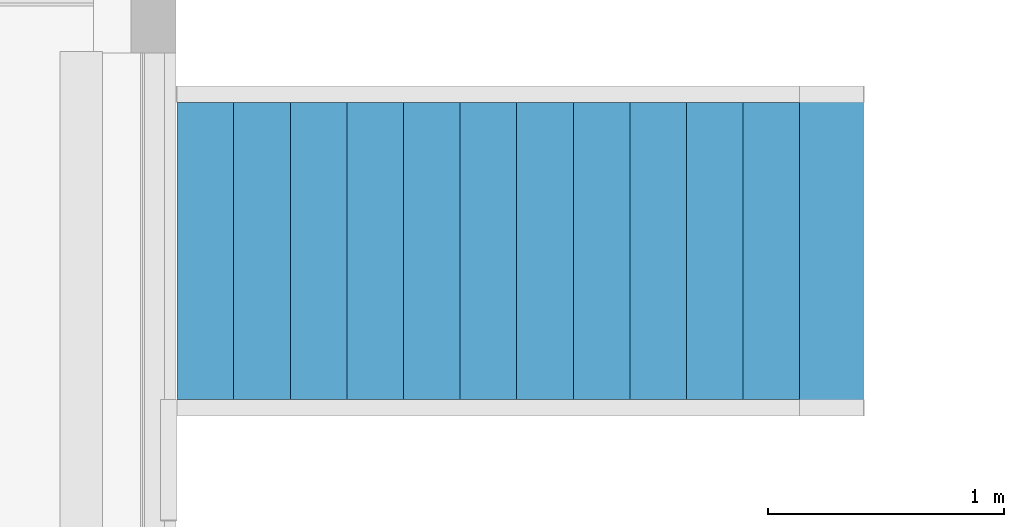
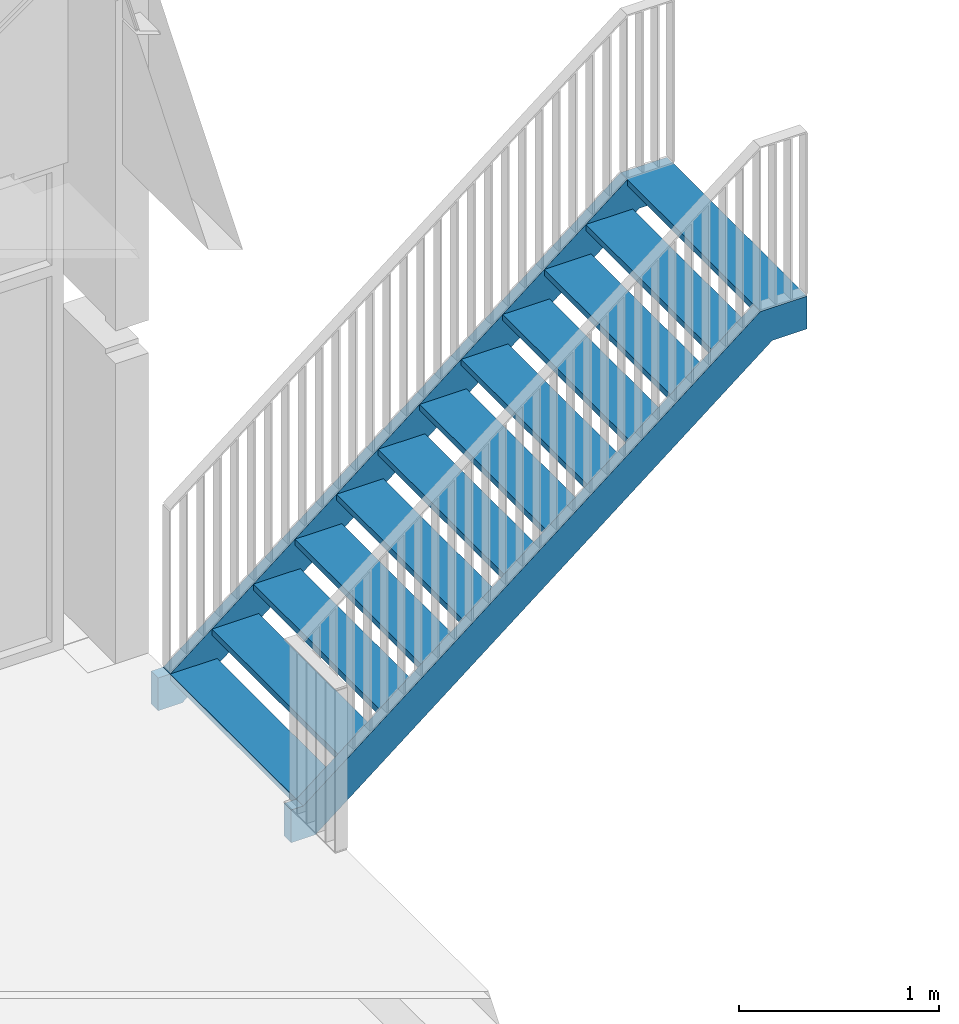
# One storey, part 35 of 94: 1 stair.
"""IFC2X3 building model written with IfcOpenShell, lengths in millimetres."""

from ifc_helpers import new_model, entity, si_unit, converted_unit, derived_unit, money_unit, direction, frame, origin_with_axes, place, context, subcontext, project, spatial, faceted_brep, material, material_list, element, save


model = new_model("IFC2X3")

# Units and contexts
model_context = context("Model", 3, precision=0.01, world=origin_with_axes(), true_north=direction((0.0, 1.0)))
body_context = subcontext(model_context, "Body", "Model", "MODEL_VIEW")
ifc_project = project(units=[si_unit("LENGTHUNIT", "METRE", prefix="MILLI"), si_unit("AREAUNIT", "SQUARE_METRE"), si_unit("VOLUMEUNIT", "CUBIC_METRE"), converted_unit("PLANEANGLEUNIT", "DEGREE", entity("IfcPlaneAngleMeasure", 0.0174532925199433), si_unit("PLANEANGLEUNIT", "RADIAN"), dimensions=[0, 0, 0, 0, 0, 0, 0]), money_unit("EUR"), converted_unit("TIMEUNIT", "Year", entity("IfcTimeMeasure", 31557600.0), si_unit("TIMEUNIT", "SECOND"), dimensions=[0, 0, 1, 0, 0, 0, 0]), si_unit("MASSUNIT", "GRAM", prefix="KILO"), si_unit("THERMODYNAMICTEMPERATUREUNIT", "DEGREE_CELSIUS"), si_unit("LUMINOUSINTENSITYUNIT", "LUMEN"), si_unit("ENERGYUNIT", "JOULE", prefix="MEGA"), derived_unit("THERMALCONDUCTANCEUNIT", [(si_unit("POWERUNIT", "WATT"), 1), (si_unit("LENGTHUNIT", "METRE"), -1), (si_unit("THERMODYNAMICTEMPERATUREUNIT", "KELVIN"), -1)]), derived_unit("SPECIFICHEATCAPACITYUNIT", [(si_unit("ENERGYUNIT", "JOULE"), 1), (si_unit("MASSUNIT", "GRAM", prefix="KILO"), -1), (si_unit("THERMODYNAMICTEMPERATUREUNIT", "KELVIN"), -1)]), derived_unit("MASSDENSITYUNIT", [(si_unit("MASSUNIT", "GRAM", prefix="KILO"), 1), (si_unit("VOLUMEUNIT", "CUBIC_METRE"), -1)])], contexts=[model_context])

# Site, building, storey
site_placement = place(None, origin_with_axes())
site = spatial("IfcSite", under=ifc_project, at=site_placement, Name="<site naam>", CompositionType="ELEMENT")
building_placement = place(site_placement, origin_with_axes())
building = spatial("IfcBuilding", under=site, at=building_placement, Name="<Naam gebouw>", CompositionType="ELEMENT")
storey_placement = place(building_placement, frame((0.0, 0.0, 4250.0), z_axis=(0.0, 0.0, 1.0), x_axis=(1.0, 0.0, 0.0)))
storey = spatial("IfcBuildingStorey", under=building, at=storey_placement, Name="01 1e verdieping", CompositionType="ELEMENT", Elevation=4250.0)

# Stair
ifc_material = material(Name="staal")
ifc_material_list = material_list([ifc_material, ifc_material, ifc_material, ifc_material, ifc_material, ifc_material, ifc_material, ifc_material, ifc_material, ifc_material, ifc_material, ifc_material, ifc_material, ifc_material])
stair_placement = place(storey_placement, frame((55775.60735283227, 11515.00000000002, 0.0), z_axis=(0.0, 0.0, 1.0), x_axis=(1.0, 0.0, 0.0)))
element("IfcStair", 1, at=stair_placement, inside=storey, material=ifc_material_list, Name="24_Trap_", ShapeType="NOTDEFINED", context=body_context, shape_type="Brep", body=[
    faceted_brep([(-3666.232747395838, 0.0, 0.0), (-3666.232747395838, 0.0, -200.0000000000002), (-3526.518577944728, 0.0, -200.0000000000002), (-3231.909844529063, 0.0, 33.78988504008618), (-2991.909844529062, 0.0, 224.2444304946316), (-2751.90984452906, 0.0, 414.6989759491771), (-2511.909844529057, 0.0, 605.1535214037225), (-2271.909844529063, 0.0, 795.6080668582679), (-2031.909844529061, 0.0, 986.0626123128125), (-1791.909844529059, 0.0, 1176.517157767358), (-1551.909844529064, 0.0, 1366.971703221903), (-1311.909844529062, 0.0, 1557.426248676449), (-1071.90984452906, 0.0, 1747.880794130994), (-886.5185779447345, 0.0, 1894.999999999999), (-686.2327473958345, 0.0, 1894.999999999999), (-686.2327473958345, 0.0, 2094.999999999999), (-956.2327473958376, 0.0, 2094.999999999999), (-1196.23274739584, 0.0, 1904.545454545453), (-1436.232747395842, 0.0, 1714.090909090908), (-1676.232747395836, 0.0, 1523.636363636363), (-1916.232747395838, 0.0, 1333.181818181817), (-2156.23274739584, 0.0, 1142.727272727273), (-2396.232747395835, 0.0, 952.2727272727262), (-2636.232747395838, 0.0, 761.8181818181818), (-2876.232747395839, 0.0, 571.3636363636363), (-3116.232747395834, 0.0, 380.9090909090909), (-3356.232747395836, 0.0, 190.4545454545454), (-3596.232747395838, 0.0, 0.0), (-3666.232747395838, 69.99999999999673, 0.0), (-3666.232747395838, 69.99999999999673, -200.0000000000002), (-3526.518577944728, 69.99999999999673, -200.0000000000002), (-3231.909844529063, 69.99999999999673, 33.78988504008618), (-2991.909844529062, 69.99999999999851, 224.2444304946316), (-2751.90984452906, 69.99999999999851, 414.6989759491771), (-2511.909844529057, 69.99999999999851, 605.1535214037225), (-2271.909844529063, 69.99999999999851, 795.6080668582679), (-2031.909844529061, 69.99999999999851, 986.0626123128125), (-1791.909844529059, 70.00000000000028, 1176.517157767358), (-1551.909844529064, 70.00000000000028, 1366.971703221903), (-1311.909844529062, 70.00000000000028, 1557.426248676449), (-1071.90984452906, 70.00000000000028, 1747.880794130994), (-886.5185779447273, 70.00000000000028, 1894.999999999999), (-686.2327473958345, 70.00000000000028, 1894.999999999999), (-686.2327473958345, 70.00000000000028, 2094.999999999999), (-956.2327473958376, 70.00000000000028, 2094.999999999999), (-3596.232747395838, 69.99999999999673, 0.0), (-1196.23274739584, 70.00000000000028, 1904.545454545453), (-1436.232747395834, 70.00000000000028, 1714.090909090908), (-1676.232747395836, 70.00000000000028, 1523.636363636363), (-1916.232747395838, 69.99999999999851, 1333.181818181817), (-2156.23274739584, 69.99999999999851, 1142.727272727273), (-2396.232747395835, 69.99999999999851, 952.2727272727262), (-2636.232747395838, 69.99999999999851, 761.8181818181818), (-2876.232747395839, 69.99999999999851, 571.3636363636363), (-3116.232747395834, 69.99999999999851, 380.9090909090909), (-3356.232747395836, 69.99999999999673, 190.4545454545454)], [[[0, 1, 2, 3, 4, 5, 6, 7, 8, 9, 10, 11, 12, 13, 14, 15, 16, 17, 18, 19, 20, 21, 22, 23, 24, 25, 26, 27]], [[0, 28, 29, 1]], [[1, 29, 30, 2]], [[2, 30, 31, 32, 33, 34, 35, 36, 37, 38, 39, 40, 41, 13, 12, 11, 10, 9, 8, 7, 6, 5, 4, 3]], [[13, 41, 42, 14]], [[15, 14, 42, 43]], [[44, 16, 15, 43]], [[45, 27, 26, 25, 24, 23, 22, 21, 20, 19, 18, 17, 16, 44, 46, 47, 48, 49, 50, 51, 52, 53, 54, 55]], [[28, 0, 27, 45]], [[29, 28, 45, 55, 54, 53, 52, 51, 50, 49, 48, 47, 46, 44, 43, 42, 41, 40, 39, 38, 37, 36, 35, 34, 33, 32, 31, 30]]]),
    faceted_brep([(-3666.232747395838, -1330.000000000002, 0.0), (-3666.232747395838, -1330.000000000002, -200.0000000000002), (-3526.518577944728, -1330.000000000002, -200.0000000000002), (-3231.909844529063, -1330.000000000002, 33.78988504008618), (-2991.909844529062, -1330.0, 224.2444304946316), (-2751.90984452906, -1330.0, 414.6989759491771), (-2511.909844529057, -1330.000000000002, 605.1535214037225), (-2271.909844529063, -1330.000000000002, 795.6080668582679), (-2031.909844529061, -1330.000000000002, 986.0626123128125), (-1791.909844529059, -1330.0, 1176.517157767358), (-1551.909844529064, -1330.0, 1366.971703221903), (-1311.909844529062, -1330.0, 1557.426248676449), (-1071.90984452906, -1330.0, 1747.880794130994), (-886.5185779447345, -1330.0, 1894.999999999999), (-686.2327473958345, -1330.0, 1894.999999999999), (-686.2327473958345, -1330.0, 2094.999999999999), (-956.2327473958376, -1330.0, 2094.999999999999), (-1196.23274739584, -1330.0, 1904.545454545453), (-1436.232747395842, -1330.0, 1714.090909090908), (-1676.232747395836, -1330.0, 1523.636363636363), (-1916.232747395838, -1330.000000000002, 1333.181818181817), (-2156.23274739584, -1330.000000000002, 1142.727272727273), (-2396.232747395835, -1330.000000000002, 952.2727272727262), (-2636.232747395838, -1330.0, 761.8181818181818), (-2876.232747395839, -1330.0, 571.3636363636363), (-3116.232747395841, -1330.0, 380.9090909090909), (-3356.232747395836, -1330.000000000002, 190.4545454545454), (-3596.232747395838, -1330.000000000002, 0.0), (-3666.232747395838, -1260.000000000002, 0.0), (-3666.232747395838, -1260.000000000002, -200.0000000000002), (-3526.518577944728, -1260.000000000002, -200.0000000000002), (-3231.909844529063, -1260.000000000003, 33.78988504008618), (-2991.909844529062, -1260.000000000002, 224.2444304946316), (-2751.90984452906, -1260.000000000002, 414.6989759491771), (-2511.909844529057, -1260.000000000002, 605.1535214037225), (-2271.909844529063, -1260.000000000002, 795.6080668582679), (-2031.909844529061, -1260.000000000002, 986.0626123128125), (-1791.909844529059, -1260.0, 1176.517157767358), (-1551.909844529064, -1260.0, 1366.971703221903), (-1311.909844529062, -1260.0, 1557.426248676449), (-1071.90984452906, -1260.0, 1747.880794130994), (-886.5185779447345, -1260.0, 1894.999999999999), (-686.2327473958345, -1260.0, 1894.999999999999), (-686.2327473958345, -1260.0, 2094.999999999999), (-956.2327473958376, -1260.0, 2094.999999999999), (-3596.232747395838, -1260.000000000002, 0.0), (-1196.23274739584, -1260.0, 1904.545454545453), (-1436.232747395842, -1260.0, 1714.090909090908), (-1676.232747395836, -1260.0, 1523.636363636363), (-1916.232747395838, -1260.000000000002, 1333.181818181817), (-2156.23274739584, -1260.000000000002, 1142.727272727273), (-2396.232747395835, -1260.000000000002, 952.2727272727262), (-2636.232747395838, -1260.000000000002, 761.8181818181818), (-2876.232747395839, -1260.000000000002, 571.3636363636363), (-3116.232747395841, -1260.000000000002, 380.9090909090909), (-3356.232747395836, -1260.000000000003, 190.4545454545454)], [[[0, 1, 2, 3, 4, 5, 6, 7, 8, 9, 10, 11, 12, 13, 14, 15, 16, 17, 18, 19, 20, 21, 22, 23, 24, 25, 26, 27]], [[0, 28, 29, 1]], [[1, 29, 30, 2]], [[2, 30, 31, 32, 33, 34, 35, 36, 37, 38, 39, 40, 41, 13, 12, 11, 10, 9, 8, 7, 6, 5, 4, 3]], [[13, 41, 42, 14]], [[15, 14, 42, 43]], [[44, 16, 15, 43]], [[45, 27, 26, 25, 24, 23, 22, 21, 20, 19, 18, 17, 16, 44, 46, 47, 48, 49, 50, 51, 52, 53, 54, 55]], [[28, 0, 27, 45]], [[29, 28, 45, 55, 54, 53, 52, 51, 50, 49, 48, 47, 46, 44, 43, 42, 41, 40, 39, 38, 37, 36, 35, 34, 33, 32, 31, 30]]]),
    faceted_brep([(-3596.232747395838, 0.0, -38.00000000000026), (-3596.232747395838, -1260.000000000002, -38.00000000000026), (-3596.232747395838, -1260.000000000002, 0.0), (-3596.232747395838, 0.0, 0.0), (-3326.232747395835, 0.0, -38.00000000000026), (-3326.232747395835, -1260.000000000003, -38.00000000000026), (-3326.232747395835, -1260.000000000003, 0.0), (-3326.232747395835, 0.0, 0.0)], [[[0, 1, 2, 3]], [[0, 4, 5, 1]], [[1, 5, 6, 2]], [[3, 2, 6, 7]], [[4, 0, 3, 7]], [[5, 4, 7, 6]]]),
    faceted_brep([(-3356.232747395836, 0.0, 152.4545454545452), (-3356.232747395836, -1260.000000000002, 152.4545454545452), (-3356.232747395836, -1260.000000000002, 190.4545454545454), (-3356.232747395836, 0.0, 190.4545454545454), (-3086.232747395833, 0.0, 152.4545454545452), (-3086.232747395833, -1260.000000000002, 152.4545454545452), (-3086.232747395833, -1260.000000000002, 190.4545454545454), (-3086.232747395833, 0.0, 190.4545454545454)], [[[0, 1, 2, 3]], [[0, 4, 5, 1]], [[1, 5, 6, 2]], [[3, 2, 6, 7]], [[4, 0, 3, 7]], [[5, 4, 7, 6]]]),
    faceted_brep([(-3116.232747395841, 0.0, 342.9090909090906), (-3116.232747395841, -1260.0, 342.9090909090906), (-3116.232747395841, -1260.0, 380.9090909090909), (-3116.232747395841, 0.0, 380.9090909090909), (-2846.232747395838, 0.0, 342.9090909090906), (-2846.232747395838, -1260.000000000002, 342.9090909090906), (-2846.232747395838, -1260.000000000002, 380.9090909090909), (-2846.232747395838, 0.0, 380.9090909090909)], [[[0, 1, 2, 3]], [[0, 4, 5, 1]], [[1, 5, 6, 2]], [[3, 2, 6, 7]], [[4, 0, 3, 7]], [[5, 4, 7, 6]]]),
    faceted_brep([(-2876.232747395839, 0.0, 533.363636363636), (-2876.232747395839, -1260.0, 533.363636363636), (-2876.232747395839, -1260.0, 571.3636363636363), (-2876.232747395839, 0.0, 571.3636363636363), (-2606.232747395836, 0.0, 533.363636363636), (-2606.232747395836, -1260.000000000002, 533.363636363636), (-2606.232747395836, -1260.000000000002, 571.3636363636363), (-2606.232747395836, 0.0, 571.3636363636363)], [[[0, 1, 2, 3]], [[0, 4, 5, 1]], [[1, 5, 6, 2]], [[3, 2, 6, 7]], [[4, 0, 3, 7]], [[5, 4, 7, 6]]]),
    faceted_brep([(-2636.232747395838, 0.0, 723.8181818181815), (-2636.232747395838, -1260.0, 723.8181818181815), (-2636.232747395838, -1260.0, 761.8181818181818), (-2636.232747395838, 0.0, 761.8181818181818), (-2366.232747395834, 0.0, 723.8181818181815), (-2366.232747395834, -1260.000000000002, 723.8181818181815), (-2366.232747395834, -1260.000000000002, 761.8181818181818), (-2366.232747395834, 0.0, 761.8181818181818)], [[[0, 1, 2, 3]], [[0, 4, 5, 1]], [[1, 5, 6, 2]], [[3, 2, 6, 7]], [[4, 0, 3, 7]], [[5, 4, 7, 6]]]),
    faceted_brep([(-2396.232747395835, 0.0, 914.272727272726), (-2396.232747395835, -1260.000000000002, 914.272727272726), (-2396.232747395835, -1260.000000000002, 952.2727272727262), (-2396.232747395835, 0.0, 952.2727272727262), (-2126.232747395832, 0.0, 914.272727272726), (-2126.232747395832, -1260.000000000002, 914.272727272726), (-2126.232747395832, -1260.000000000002, 952.2727272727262), (-2126.232747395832, 0.0, 952.2727272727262)], [[[0, 1, 2, 3]], [[0, 4, 5, 1]], [[1, 5, 6, 2]], [[3, 2, 6, 7]], [[4, 0, 3, 7]], [[5, 4, 7, 6]]]),
    faceted_brep([(-2156.23274739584, 0.0, 1104.727272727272), (-2156.23274739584, -1260.000000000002, 1104.727272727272), (-2156.23274739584, -1260.000000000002, 1142.727272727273), (-2156.23274739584, 0.0, 1142.727272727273), (-1886.232747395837, 0.0, 1104.727272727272), (-1886.232747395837, -1260.0, 1104.727272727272), (-1886.232747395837, -1260.0, 1142.727272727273), (-1886.232747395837, 0.0, 1142.727272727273)], [[[0, 1, 2, 3]], [[0, 4, 5, 1]], [[1, 5, 6, 2]], [[3, 2, 6, 7]], [[4, 0, 3, 7]], [[5, 4, 7, 6]]]),
    faceted_brep([(-1916.232747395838, 0.0, 1295.181818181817), (-1916.232747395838, -1260.000000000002, 1295.181818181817), (-1916.232747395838, -1260.000000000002, 1333.181818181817), (-1916.232747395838, 0.0, 1333.181818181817), (-1646.232747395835, 0.0, 1295.181818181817), (-1646.232747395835, -1260.0, 1295.181818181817), (-1646.232747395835, -1260.0, 1333.181818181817), (-1646.232747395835, 0.0, 1333.181818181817)], [[[0, 1, 2, 3]], [[0, 4, 5, 1]], [[1, 5, 6, 2]], [[3, 2, 6, 7]], [[4, 0, 3, 7]], [[5, 4, 7, 6]]]),
    faceted_brep([(-1676.232747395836, 0.0, 1485.636363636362), (-1676.232747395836, -1260.0, 1485.636363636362), (-1676.232747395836, -1260.0, 1523.636363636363), (-1676.232747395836, 0.0, 1523.636363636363), (-1406.232747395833, 0.0, 1485.636363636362), (-1406.232747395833, -1260.0, 1485.636363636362), (-1406.232747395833, -1260.0, 1523.636363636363), (-1406.232747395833, 0.0, 1523.636363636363)], [[[0, 1, 2, 3]], [[0, 4, 5, 1]], [[1, 5, 6, 2]], [[3, 2, 6, 7]], [[4, 0, 3, 7]], [[5, 4, 7, 6]]]),
    faceted_brep([(-1436.232747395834, 0.0, 1676.090909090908), (-1436.232747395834, -1260.0, 1676.090909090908), (-1436.232747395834, -1260.0, 1714.090909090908), (-1436.232747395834, 0.0, 1714.090909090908), (-1166.232747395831, 0.0, 1676.090909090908), (-1166.232747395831, -1260.0, 1676.090909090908), (-1166.232747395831, -1260.0, 1714.090909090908), (-1166.232747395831, 0.0, 1714.090909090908)], [[[0, 1, 2, 3]], [[0, 4, 5, 1]], [[1, 5, 6, 2]], [[3, 2, 6, 7]], [[4, 0, 3, 7]], [[5, 4, 7, 6]]]),
    faceted_brep([(-1196.23274739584, 0.0, 1866.545454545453), (-1196.23274739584, -1260.0, 1866.545454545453), (-1196.23274739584, -1260.0, 1904.545454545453), (-1196.23274739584, 0.0, 1904.545454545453), (-926.2327473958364, 0.0, 1866.545454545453), (-926.2327473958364, -1260.0, 1866.545454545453), (-926.2327473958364, -1260.0, 1904.545454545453), (-926.2327473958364, 0.0, 1904.545454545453)], [[[0, 1, 2, 3]], [[0, 4, 5, 1]], [[1, 5, 6, 2]], [[3, 2, 6, 7]], [[4, 0, 3, 7]], [[5, 4, 7, 6]]]),
    faceted_brep([(-956.2327473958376, 69.99999999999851, 2056.999999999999), (-956.2327473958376, -1330.0, 2056.999999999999), (-956.2327473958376, -1330.0, 2094.999999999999), (-956.2327473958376, 69.99999999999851, 2094.999999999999), (-686.2327473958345, 69.99999999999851, 2056.999999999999), (-686.2327473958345, -1330.0, 2056.999999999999), (-686.2327473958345, -1330.0, 2094.999999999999), (-686.2327473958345, 69.99999999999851, 2094.999999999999)], [[[0, 1, 2, 3]], [[0, 4, 5, 1]], [[1, 5, 6, 2]], [[3, 2, 6, 7]], [[4, 0, 3, 7]], [[5, 4, 7, 6]]]),
])

save(model, "model.ifc")
